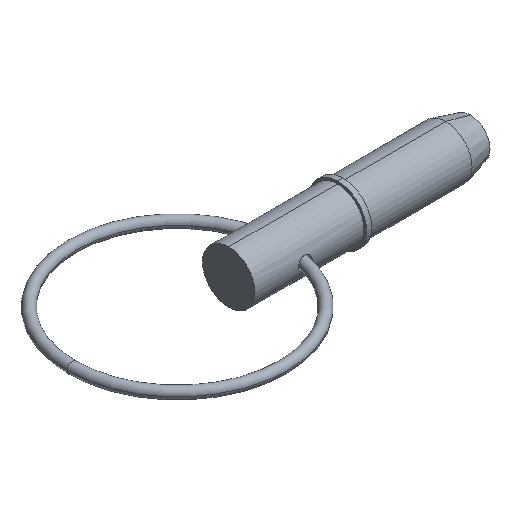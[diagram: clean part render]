
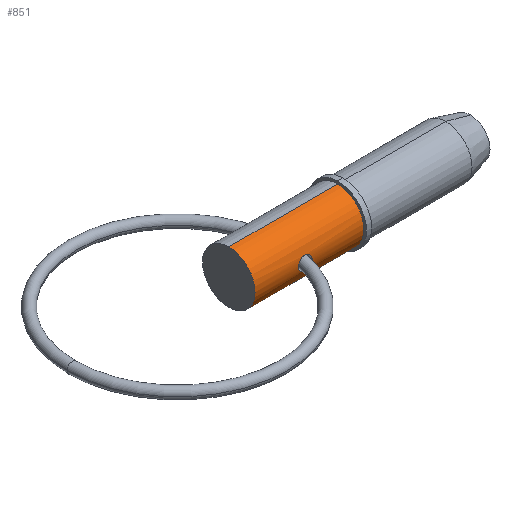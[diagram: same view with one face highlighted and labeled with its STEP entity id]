
A CAD part, isometric view. The second image highlights one B-rep face of the part: STEP entity #851.
In plain terms, the highlighted cylindrical face has radius 5.555 mm (diameter 11.11 mm), a partial arc.
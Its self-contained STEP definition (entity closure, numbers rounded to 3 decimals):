
#7 = CARTESIAN_POINT ( 'NONE',  ( 11.522, -5.441, -1.126 ) ) ;
#10 = VERTEX_POINT ( 'NONE', #969 ) ;
#12 = CARTESIAN_POINT ( 'NONE',  ( 11.361, -5.418, 1.229 ) ) ;
#17 = CIRCLE ( 'NONE', #159, 5.555 ) ;
#21 = DIRECTION ( 'NONE',  ( 0., 0., -1. ) ) ;
#24 = ORIENTED_EDGE ( 'NONE', *, *, #163, .F. ) ;
#40 = B_SPLINE_CURVE_WITH_KNOTS ( 'NONE', 3,
 ( #375, #80, #625, #86, #954, #724, #90, #7, #76, #239, #147, #154, #539, #550, #883, #250, #309, #404, #1032, #390, #406, #714 ),
 .UNSPECIFIED., .F., .F.,
 ( 4, 2, 2, 2, 2, 2, 2, 2, 2, 2, 4 ),
 ( 0.006, 0.006, 0.006, 0.007, 0.007, 0.008, 0.008, 0.009, 0.009, 0.01, 0.01 ),
 .UNSPECIFIED. ) ;
#44 = EDGE_CURVE ( 'NONE', #1013, #621, #711, .T. ) ;
#76 = CARTESIAN_POINT ( 'NONE',  ( 11.363, -5.418, -1.228 ) ) ;
#80 = CARTESIAN_POINT ( 'NONE',  ( 12.065, -5.555, -0.093 ) ) ;
#86 = CARTESIAN_POINT ( 'NONE',  ( 12.02, -5.544, -0.366 ) ) ;
#90 = CARTESIAN_POINT ( 'NONE',  ( 11.783, -5.488, -0.869 ) ) ;
#94 = CARTESIAN_POINT ( 'NONE',  ( 9.206, -5.553, 0.186 ) ) ;
#147 = CARTESIAN_POINT ( 'NONE',  ( 11.014, -5.388, -1.353 ) ) ;
#154 = CARTESIAN_POINT ( 'NONE',  ( 10.831, -5.38, -1.384 ) ) ;
#156 = CARTESIAN_POINT ( 'NONE',  ( 9.506, -5.49, 0.857 ) ) ;
#159 = AXIS2_PLACEMENT_3D ( 'NONE', #679, #297, #609 ) ;
#162 = DIRECTION ( 'NONE',  ( 0., 0., -1. ) ) ;
#163 = EDGE_CURVE ( 'NONE', #1013, #759, #1035, .T. ) ;
#166 = AXIS2_PLACEMENT_3D ( 'NONE', #866, #880, #162 ) ;
#169 = CARTESIAN_POINT ( 'NONE',  ( 9.394, -5.512, 0.707 ) ) ;
#174 = CARTESIAN_POINT ( 'NONE',  ( 0., 0., 5.555 ) ) ;
#178 = CARTESIAN_POINT ( 'NONE',  ( 0., 0., 5.555 ) ) ;
#216 = CARTESIAN_POINT ( 'NONE',  ( 23.019, 0., 5.555 ) ) ;
#228 = CARTESIAN_POINT ( 'NONE',  ( 9.247, -5.544, 0.367 ) ) ;
#230 = EDGE_LOOP ( 'NONE', ( #562, #1017 ) ) ;
#239 = CARTESIAN_POINT ( 'NONE',  ( 11.105, -5.394, -1.328 ) ) ;
#244 = CARTESIAN_POINT ( 'NONE',  ( 12.065, -5.555, 0.186 ) ) ;
#250 = CARTESIAN_POINT ( 'NONE',  ( 9.572, -5.479, -0.918 ) ) ;
#277 = VECTOR ( 'NONE', #399, 1000. ) ;
#280 = ORIENTED_EDGE ( 'NONE', *, *, #755, .F. ) ;
#297 = DIRECTION ( 'NONE',  ( 1., 0., 0. ) ) ;
#304 = CARTESIAN_POINT ( 'NONE',  ( 9.196, -5.555, 0. ) ) ;
#309 = CARTESIAN_POINT ( 'NONE',  ( 9.511, -5.49, -0.85 ) ) ;
#313 = CARTESIAN_POINT ( 'NONE',  ( 12.065, -5.555, 0. ) ) ;
#317 = CARTESIAN_POINT ( 'NONE',  ( 10.277, -5.39, 1.345 ) ) ;
#321 = CARTESIAN_POINT ( 'NONE',  ( 9.936, -5.423, 1.207 ) ) ;
#344 = EDGE_CURVE ( 'NONE', #621, #835, #975, .T. ) ;
#356 = VERTEX_POINT ( 'NONE', #313 ) ;
#375 = CARTESIAN_POINT ( 'NONE',  ( 12.065, -5.555, 0. ) ) ;
#390 = CARTESIAN_POINT ( 'NONE',  ( 9.238, -5.545, -0.37 ) ) ;
#398 = CARTESIAN_POINT ( 'NONE',  ( 9.196, -5.555, 0.092 ) ) ;
#399 = DIRECTION ( 'NONE',  ( 1., 0., 0. ) ) ;
#404 = CARTESIAN_POINT ( 'NONE',  ( 9.401, -5.511, -0.701 ) ) ;
#406 = CARTESIAN_POINT ( 'NONE',  ( 9.196, -5.555, -0.184 ) ) ;
#417 = DIRECTION ( 'NONE',  ( 1., 0., 0. ) ) ;
#430 = CARTESIAN_POINT ( 'NONE',  ( 0., 0., -5.555 ) ) ;
#444 = ORIENTED_EDGE ( 'NONE', *, *, #44, .T. ) ;
#457 = AXIS2_PLACEMENT_3D ( 'NONE', #732, #561, #21 ) ;
#464 = CARTESIAN_POINT ( 'NONE',  ( 9.277, -5.537, 0.454 ) ) ;
#471 = CARTESIAN_POINT ( 'NONE',  ( 11.879, -5.51, 0.709 ) ) ;
#477 = CARTESIAN_POINT ( 'NONE',  ( 10.831, -5.378, 1.392 ) ) ;
#484 = B_SPLINE_CURVE_WITH_KNOTS ( 'NONE', 3,
 ( #304, #398, #94, #228, #464, #169, #156, #620, #321, #317, #719, #477, #795, #12, #487, #804, #636, #471, #958, #558, #244, #812 ),
 .UNSPECIFIED., .F., .F.,
 ( 4, 2, 2, 2, 2, 2, 2, 2, 2, 2, 4 ),
 ( 0.001, 0.002, 0.002, 0.002, 0.003, 0.003, 0.004, 0.005, 0.005, 0.005, 0.006 ),
 .UNSPECIFIED. ) ;
#487 = CARTESIAN_POINT ( 'NONE',  ( 11.521, -5.441, 1.127 ) ) ;
#539 = CARTESIAN_POINT ( 'NONE',  ( 10.739, -5.378, -1.39 ) ) ;
#550 = CARTESIAN_POINT ( 'NONE',  ( 10.274, -5.381, -1.38 ) ) ;
#554 = CYLINDRICAL_SURFACE ( 'NONE', #166, 5.555 ) ;
#558 = CARTESIAN_POINT ( 'NONE',  ( 12.029, -5.545, 0.371 ) ) ;
#561 = DIRECTION ( 'NONE',  ( 1., 0., 0. ) ) ;
#562 = ORIENTED_EDGE ( 'NONE', *, *, #836, .T. ) ;
#609 = DIRECTION ( 'NONE',  ( 0., 0., -1. ) ) ;
#620 = CARTESIAN_POINT ( 'NONE',  ( 9.777, -5.445, 1.107 ) ) ;
#621 = VERTEX_POINT ( 'NONE', #430 ) ;
#622 = VECTOR ( 'NONE', #417, 1000. ) ;
#625 = CARTESIAN_POINT ( 'NONE',  ( 12.056, -5.553, -0.185 ) ) ;
#633 = ORIENTED_EDGE ( 'NONE', *, *, #344, .T. ) ;
#636 = CARTESIAN_POINT ( 'NONE',  ( 11.777, -5.488, 0.862 ) ) ;
#643 = FACE_BOUND ( 'NONE', #230, .T. ) ;
#679 = CARTESIAN_POINT ( 'NONE',  ( 23.019, 0., 0. ) ) ;
#711 = CIRCLE ( 'NONE', #457, 5.555 ) ;
#714 = CARTESIAN_POINT ( 'NONE',  ( 9.196, -5.555, 0. ) ) ;
#719 = CARTESIAN_POINT ( 'NONE',  ( 10.463, -5.38, 1.384 ) ) ;
#724 = CARTESIAN_POINT ( 'NONE',  ( 11.888, -5.512, -0.712 ) ) ;
#732 = CARTESIAN_POINT ( 'NONE',  ( 0., 0., 0. ) ) ;
#755 = EDGE_CURVE ( 'NONE', #759, #835, #17, .T. ) ;
#759 = VERTEX_POINT ( 'NONE', #216 ) ;
#795 = CARTESIAN_POINT ( 'NONE',  ( 11.019, -5.386, 1.361 ) ) ;
#804 = CARTESIAN_POINT ( 'NONE',  ( 11.717, -5.476, 0.934 ) ) ;
#805 = CARTESIAN_POINT ( 'NONE',  ( 0., 0., -5.555 ) ) ;
#812 = CARTESIAN_POINT ( 'NONE',  ( 12.065, -5.555, 0. ) ) ;
#831 = EDGE_CURVE ( 'NONE', #356, #10, #40, .T. ) ;
#835 = VERTEX_POINT ( 'NONE', #874 ) ;
#836 = EDGE_CURVE ( 'NONE', #10, #356, #484, .T. ) ;
#851 = ADVANCED_FACE ( 'NONE', ( #943, #643 ), #554, .T. ) ;
#866 = CARTESIAN_POINT ( 'NONE',  ( 0., 0., 0. ) ) ;
#874 = CARTESIAN_POINT ( 'NONE',  ( 23.019, 0., -5.555 ) ) ;
#880 = DIRECTION ( 'NONE',  ( 1., 0., 0. ) ) ;
#883 = CARTESIAN_POINT ( 'NONE',  ( 9.909, -5.423, -1.23 ) ) ;
#914 = EDGE_LOOP ( 'NONE', ( #24, #444, #633, #280 ) ) ;
#943 = FACE_OUTER_BOUND ( 'NONE', #914, .T. ) ;
#954 = CARTESIAN_POINT ( 'NONE',  ( 11.993, -5.537, -0.457 ) ) ;
#958 = CARTESIAN_POINT ( 'NONE',  ( 11.923, -5.52, 0.628 ) ) ;
#969 = CARTESIAN_POINT ( 'NONE',  ( 9.196, -5.555, 0. ) ) ;
#975 = LINE ( 'NONE', #805, #277 ) ;
#1013 = VERTEX_POINT ( 'NONE', #178 ) ;
#1017 = ORIENTED_EDGE ( 'NONE', *, *, #831, .T. ) ;
#1032 = CARTESIAN_POINT ( 'NONE',  ( 9.354, -5.521, -0.62 ) ) ;
#1035 = LINE ( 'NONE', #174, #622 ) ;
